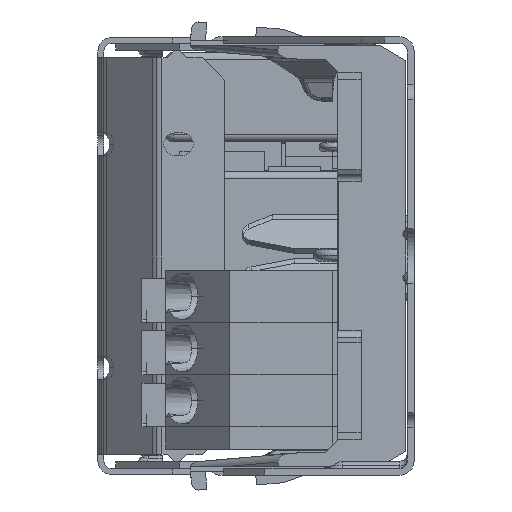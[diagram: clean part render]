
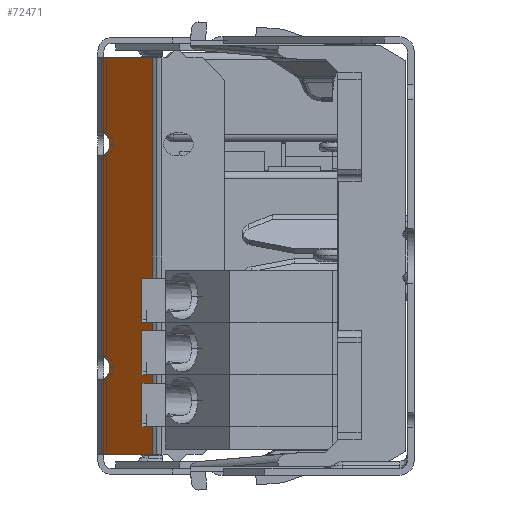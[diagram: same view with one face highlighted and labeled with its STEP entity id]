
A CAD part, left-side view. The second image highlights one B-rep face of the part: STEP entity #72471.
In plain terms, the highlighted planar face has unit normal (-0.707, 0.707, 0).
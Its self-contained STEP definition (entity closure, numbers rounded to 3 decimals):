
#2418 = DIRECTION ( 'NONE',  ( 0., 0., 1. ) ) ;
#2800 = DIRECTION ( 'NONE',  ( 0.707, -0.707, 0. ) ) ;
#5149 = CARTESIAN_POINT ( 'NONE',  ( -75.342, -0.264, 6.75 ) ) ;
#5196 = AXIS2_PLACEMENT_3D ( 'NONE', #8129, #70550, #17097 ) ;
#6853 = VECTOR ( 'NONE', #78952, 1000. ) ;
#8129 = CARTESIAN_POINT ( 'NONE',  ( -75.324, -0.246, -7.5 ) ) ;
#10819 = EDGE_CURVE ( 'NONE', #31277, #49038, #67895, .T. ) ;
#11058 = VERTEX_POINT ( 'NONE', #76244 ) ;
#17097 = DIRECTION ( 'NONE',  ( -0.707, -0.707, 0. ) ) ;
#19321 = CARTESIAN_POINT ( 'NONE',  ( -75.342, -0.264, 8.25 ) ) ;
#19689 = CARTESIAN_POINT ( 'NONE',  ( -75.324, -0.246, 7.5 ) ) ;
#20590 = CARTESIAN_POINT ( 'NONE',  ( -75.324, -0.246, -7.5 ) ) ;
#22446 = EDGE_CURVE ( 'NONE', #56375, #11058, #105817, .T. ) ;
#23196 = VECTOR ( 'NONE', #46221, 1000. ) ;
#23843 = EDGE_CURVE ( 'NONE', #32333, #31277, #90128, .T. ) ;
#26642 = VERTEX_POINT ( 'NONE', #77484 ) ;
#27193 = AXIS2_PLACEMENT_3D ( 'NONE', #108255, #28215, #90651 ) ;
#27571 = VECTOR ( 'NONE', #94901, 1000. ) ;
#28215 = DIRECTION ( 'NONE',  ( -0.707, 0.707, 0. ) ) ;
#28650 = DIRECTION ( 'NONE',  ( -0.707, -0.707, 0. ) ) ;
#29530 = DIRECTION ( 'NONE',  ( -0.707, -0.707, 0. ) ) ;
#31277 = VERTEX_POINT ( 'NONE', #83336 ) ;
#32333 = VERTEX_POINT ( 'NONE', #101835 ) ;
#32438 = CARTESIAN_POINT ( 'NONE',  ( -75.342, -0.264, 182.918 ) ) ;
#33348 = LINE ( 'NONE', #105554, #6853 ) ;
#34416 = ORIENTED_EDGE ( 'NONE', *, *, #51628, .F. ) ;
#34503 = VECTOR ( 'NONE', #2418, 1000. ) ;
#35732 = EDGE_CURVE ( 'NONE', #26642, #43455, #48496, .T. ) ;
#37196 = CARTESIAN_POINT ( 'NONE',  ( -78.736, -3.658, 13.3 ) ) ;
#37197 = VERTEX_POINT ( 'NONE', #64087 ) ;
#40497 = VERTEX_POINT ( 'NONE', #19321 ) ;
#42881 = AXIS2_PLACEMENT_3D ( 'NONE', #19689, #82129, #28650 ) ;
#43455 = VERTEX_POINT ( 'NONE', #5149 ) ;
#45627 = CIRCLE ( 'NONE', #60020, 0.75 ) ;
#46221 = DIRECTION ( 'NONE',  ( 0.707, 0.707, 0. ) ) ;
#46871 = VECTOR ( 'NONE', #93061, 1000. ) ;
#48111 = ORIENTED_EDGE ( 'NONE', *, *, #10819, .T. ) ;
#48421 = CARTESIAN_POINT ( 'NONE',  ( -75.854, -0.776, -7.5 ) ) ;
#48496 = LINE ( 'NONE', #32438, #27571 ) ;
#48512 = CARTESIAN_POINT ( 'NONE',  ( -75.342, -0.264, 182.918 ) ) ;
#49038 = VERTEX_POINT ( 'NONE', #58674 ) ;
#51628 = EDGE_CURVE ( 'NONE', #40497, #49038, #73436, .T. ) ;
#52695 = EDGE_CURVE ( 'NONE', #114290, #11058, #78827, .T. ) ;
#54743 = PLANE ( 'NONE',  #27193 ) ;
#56158 = CARTESIAN_POINT ( 'NONE',  ( -75.342, -0.264, -13.3 ) ) ;
#56242 = CARTESIAN_POINT ( 'NONE',  ( -75.324, -0.246, 7.5 ) ) ;
#56375 = VERTEX_POINT ( 'NONE', #56158 ) ;
#58674 = CARTESIAN_POINT ( 'NONE',  ( -75.342, -0.264, 13.3 ) ) ;
#59873 = ORIENTED_EDGE ( 'NONE', *, *, #23843, .T. ) ;
#60020 = AXIS2_PLACEMENT_3D ( 'NONE', #56242, #2800, #65210 ) ;
#64087 = CARTESIAN_POINT ( 'NONE',  ( -75.854, -0.776, 7.5 ) ) ;
#65210 = DIRECTION ( 'NONE',  ( -0.707, -0.707, 0. ) ) ;
#65463 = ORIENTED_EDGE ( 'NONE', *, *, #109379, .T. ) ;
#66367 = VECTOR ( 'NONE', #86597, 1000. ) ;
#67594 = ORIENTED_EDGE ( 'NONE', *, *, #67613, .T. ) ;
#67613 = EDGE_CURVE ( 'NONE', #26642, #114290, #115021, .T. ) ;
#67895 = LINE ( 'NONE', #37196, #23196 ) ;
#70550 = DIRECTION ( 'NONE',  ( 0.707, -0.707, 0. ) ) ;
#72471 = ADVANCED_FACE ( 'NONE', ( #98726 ), #54743, .T. ) ;
#73436 = LINE ( 'NONE', #48512, #46871 ) ;
#74088 = EDGE_CURVE ( 'NONE', #32333, #56375, #33348, .T. ) ;
#76244 = CARTESIAN_POINT ( 'NONE',  ( -75.342, -0.264, -8.25 ) ) ;
#77195 = ORIENTED_EDGE ( 'NONE', *, *, #35732, .F. ) ;
#77484 = CARTESIAN_POINT ( 'NONE',  ( -75.342, -0.264, -6.75 ) ) ;
#78827 = CIRCLE ( 'NONE', #101307, 0.75 ) ;
#78952 = DIRECTION ( 'NONE',  ( 0.707, 0.707, 0. ) ) ;
#81769 = EDGE_LOOP ( 'NONE', ( #93461, #93023, #59873, #48111, #34416, #65463, #92380, #77195, #67594, #105622 ) ) ;
#82129 = DIRECTION ( 'NONE',  ( 0.707, -0.707, 0. ) ) ;
#82383 = CARTESIAN_POINT ( 'NONE',  ( -75.342, -0.264, 182.918 ) ) ;
#83023 = DIRECTION ( 'NONE',  ( 0.707, -0.707, 0. ) ) ;
#83336 = CARTESIAN_POINT ( 'NONE',  ( -78.736, -3.658, 13.3 ) ) ;
#86597 = DIRECTION ( 'NONE',  ( 0., 0., 1. ) ) ;
#88112 = EDGE_CURVE ( 'NONE', #37197, #43455, #45627, .T. ) ;
#90128 = LINE ( 'NONE', #104587, #66367 ) ;
#90651 = DIRECTION ( 'NONE',  ( -0.707, -0.707, 0. ) ) ;
#92380 = ORIENTED_EDGE ( 'NONE', *, *, #88112, .T. ) ;
#93023 = ORIENTED_EDGE ( 'NONE', *, *, #74088, .F. ) ;
#93061 = DIRECTION ( 'NONE',  ( 0., 0., 1. ) ) ;
#93461 = ORIENTED_EDGE ( 'NONE', *, *, #22446, .F. ) ;
#94901 = DIRECTION ( 'NONE',  ( 0., 0., 1. ) ) ;
#98726 = FACE_OUTER_BOUND ( 'NONE', #81769, .T. ) ;
#101307 = AXIS2_PLACEMENT_3D ( 'NONE', #20590, #83023, #29530 ) ;
#101835 = CARTESIAN_POINT ( 'NONE',  ( -78.736, -3.658, -13.3 ) ) ;
#103625 = CIRCLE ( 'NONE', #42881, 0.75 ) ;
#104587 = CARTESIAN_POINT ( 'NONE',  ( -78.736, -3.658, 14.65 ) ) ;
#105554 = CARTESIAN_POINT ( 'NONE',  ( -78.736, -3.658, -13.3 ) ) ;
#105622 = ORIENTED_EDGE ( 'NONE', *, *, #52695, .T. ) ;
#105817 = LINE ( 'NONE', #82383, #34503 ) ;
#108255 = CARTESIAN_POINT ( 'NONE',  ( 30.551, 105.629, 14.65 ) ) ;
#109379 = EDGE_CURVE ( 'NONE', #40497, #37197, #103625, .T. ) ;
#114290 = VERTEX_POINT ( 'NONE', #48421 ) ;
#115021 = CIRCLE ( 'NONE', #5196, 0.75 ) ;
